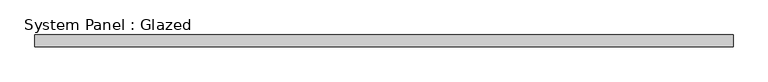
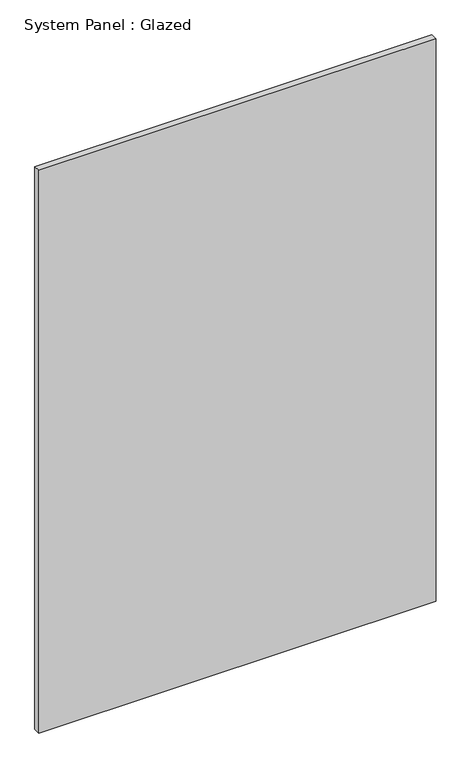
"""IFC4 building model written with IfcOpenShell, lengths in millimetres: plate geometry, System Panel : Glazed."""

from ifc_helpers import new_model, si_unit, origin, origin_with_axes, place, context, project, spatial, polyline, outline, extrude, source, transform, mapped, element, save


def system_panel_glazed_f3fc53cd(model_context):
    return source(origin(), model_context, "Body", "SweptSolid", [
        extrude(outline(polyline([(753.5333333, -12.7), (-753.5333333, -12.7), (-753.5333333, 12.7), (753.5333333, 12.7), (753.5333333, -12.7)])), origin_with_axes(), (0.0, 0.0, 1.0), 2255.8510357),
    ])


if __name__ == "__main__":
    model = new_model("IFC4")
    model_context = context("Model", 3, world=origin())
    ifc_project = project(units=[si_unit("LENGTHUNIT", "METRE", prefix="MILLI")], contexts=[model_context])
    site = spatial("IfcSite", under=ifc_project)
    building = spatial("IfcBuilding", under=site)
    placement = place(None, origin())
    system_panel_glazed_shape = system_panel_glazed_f3fc53cd(model_context)
    element("IfcPlate", 1, ObjectType="System Panel : Glazed", at=placement, inside=building, context=model_context, shape_type="MappedRepresentation", body=[
        mapped(system_panel_glazed_shape, transform((0.0, 0.0, 0.0), x_axis=(1.0, 0.0, 0.0), y_axis=(0.0, 1.0, 0.0), z_axis=(0.0, 0.0, 1.0))),
    ])
    save(model, "model.ifc")
